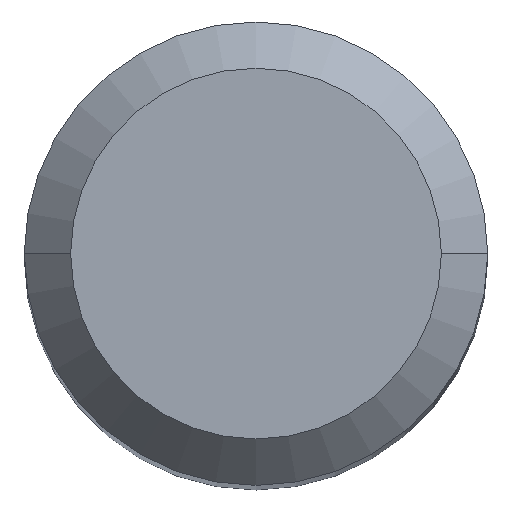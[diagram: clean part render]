
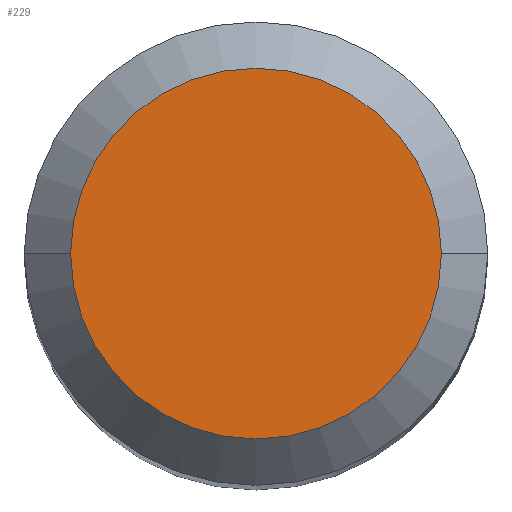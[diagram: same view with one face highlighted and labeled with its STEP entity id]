
A CAD part, top view. The second image highlights one B-rep face of the part: STEP entity #229.
In plain terms, the highlighted planar face has unit normal (0, 0, 1).
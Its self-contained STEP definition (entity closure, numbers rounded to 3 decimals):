
#36 = CARTESIAN_POINT ( 'NONE',  ( -2.4, 0., 0. ) ) ;
#39 = ORIENTED_EDGE ( 'NONE', *, *, #293, .F. ) ;
#67 = EDGE_LOOP ( 'NONE', ( #199, #39 ) ) ;
#68 = DIRECTION ( 'NONE',  ( -1., 0., 0. ) ) ;
#149 = VERTEX_POINT ( 'NONE', #320 ) ;
#160 = DIRECTION ( 'NONE',  ( 0., 0., -1. ) ) ;
#183 = EDGE_CURVE ( 'NONE', #353, #149, #432, .T. ) ;
#195 = PLANE ( 'NONE',  #440 ) ;
#199 = ORIENTED_EDGE ( 'NONE', *, *, #183, .F. ) ;
#202 = DIRECTION ( 'NONE',  ( 0., 0., 1. ) ) ;
#229 = ADVANCED_FACE ( 'NONE', ( #406 ), #195, .T. ) ;
#273 = DIRECTION ( 'NONE',  ( 1., 0., 0. ) ) ;
#285 = CARTESIAN_POINT ( 'NONE',  ( 0., 0., 0. ) ) ;
#292 = AXIS2_PLACEMENT_3D ( 'NONE', #285, #397, #411 ) ;
#293 = EDGE_CURVE ( 'NONE', #149, #353, #522, .T. ) ;
#320 = CARTESIAN_POINT ( 'NONE',  ( 2.4, 0., 0. ) ) ;
#353 = VERTEX_POINT ( 'NONE', #36 ) ;
#358 = CARTESIAN_POINT ( 'NONE',  ( 0., 2.4, 0. ) ) ;
#397 = DIRECTION ( 'NONE',  ( 0., 0., -1. ) ) ;
#406 = FACE_OUTER_BOUND ( 'NONE', #67, .T. ) ;
#411 = DIRECTION ( 'NONE',  ( -1., 0., 0. ) ) ;
#432 = CIRCLE ( 'NONE', #454, 2.4 ) ;
#440 = AXIS2_PLACEMENT_3D ( 'NONE', #358, #202, #273 ) ;
#454 = AXIS2_PLACEMENT_3D ( 'NONE', #533, #160, #68 ) ;
#522 = CIRCLE ( 'NONE', #292, 2.4 ) ;
#533 = CARTESIAN_POINT ( 'NONE',  ( 0., 0., 0. ) ) ;
